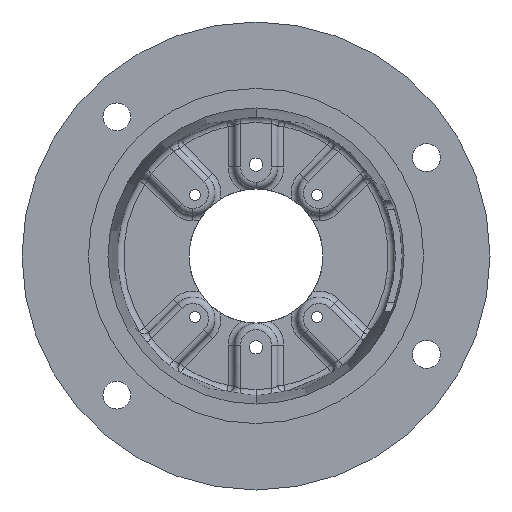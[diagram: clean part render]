
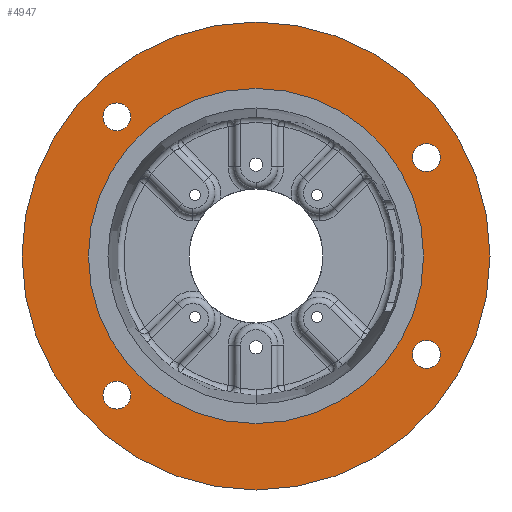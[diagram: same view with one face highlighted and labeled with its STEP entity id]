
A CAD part, front view. The second image highlights one B-rep face of the part: STEP entity #4947.
In plain terms, the highlighted planar face has unit normal (0, -1, 0).
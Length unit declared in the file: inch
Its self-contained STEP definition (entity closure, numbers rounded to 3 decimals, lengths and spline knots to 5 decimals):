
#106 = AXIS2_PLACEMENT_3D ( 'NONE', #3076, #10320, #4099 ) ;
#207 = DIRECTION ( 'NONE',  ( 0., -1., 0. ) ) ;
#375 = CIRCLE ( 'NONE', #9555, 0.32812 ) ;
#405 = DIRECTION ( 'NONE',  ( 0., 0., -1. ) ) ;
#452 = EDGE_CURVE ( 'NONE', #11928, #9702, #5743, .T. ) ;
#541 = CIRCLE ( 'NONE', #3482, 0.32812 ) ;
#590 = AXIS2_PLACEMENT_3D ( 'NONE', #9621, #3418, #10676 ) ;
#607 = DIRECTION ( 'NONE',  ( 0., -1., 0. ) ) ;
#648 = DIRECTION ( 'NONE',  ( 0., 1., 0. ) ) ;
#670 = CARTESIAN_POINT ( 'NONE',  ( -3.27037, 0., 3.27037 ) ) ;
#686 = CARTESIAN_POINT ( 'NONE',  ( -5.5, 0., 0. ) ) ;
#878 = VERTEX_POINT ( 'NONE', #12911 ) ;
#1000 = EDGE_CURVE ( 'NONE', #1751, #12498, #5585, .T. ) ;
#1241 = EDGE_CURVE ( 'NONE', #4808, #13283, #11269, .T. ) ;
#1345 = CARTESIAN_POINT ( 'NONE',  ( -3.27037, 0., 2.94224 ) ) ;
#1590 = VERTEX_POINT ( 'NONE', #3546 ) ;
#1751 = VERTEX_POINT ( 'NONE', #12488 ) ;
#2260 = FACE_OUTER_BOUND ( 'NONE', #12028, .T. ) ;
#2394 = CARTESIAN_POINT ( 'NONE',  ( 0., 0., 0. ) ) ;
#2471 = DIRECTION ( 'NONE',  ( 0., -1., 0. ) ) ;
#2473 = EDGE_CURVE ( 'NONE', #4027, #12474, #375, .T. ) ;
#2589 = FACE_BOUND ( 'NONE', #12554, .T. ) ;
#2685 = ORIENTED_EDGE ( 'NONE', *, *, #6621, .F. ) ;
#2773 = AXIS2_PLACEMENT_3D ( 'NONE', #5933, #5895, #4962 ) ;
#2822 = EDGE_CURVE ( 'NONE', #12498, #1751, #541, .T. ) ;
#3076 = CARTESIAN_POINT ( 'NONE',  ( 0., 0., 0. ) ) ;
#3410 = AXIS2_PLACEMENT_3D ( 'NONE', #4347, #11602, #5379 ) ;
#3418 = DIRECTION ( 'NONE',  ( 0., -1., 0. ) ) ;
#3447 = DIRECTION ( 'NONE',  ( 0., 0., -1. ) ) ;
#3482 = AXIS2_PLACEMENT_3D ( 'NONE', #5189, #3558, #5837 ) ;
#3546 = CARTESIAN_POINT ( 'NONE',  ( 4.00537, 0., 1.98437 ) ) ;
#3558 = DIRECTION ( 'NONE',  ( 0., -1., 0. ) ) ;
#3722 = CIRCLE ( 'NONE', #7131, 0.32812 ) ;
#3896 = AXIS2_PLACEMENT_3D ( 'NONE', #11058, #11012, #10740 ) ;
#4027 = VERTEX_POINT ( 'NONE', #10810 ) ;
#4099 = DIRECTION ( 'NONE',  ( 0., 0., -1. ) ) ;
#4240 = ORIENTED_EDGE ( 'NONE', *, *, #5583, .T. ) ;
#4315 = CARTESIAN_POINT ( 'NONE',  ( 0., 0., -3.9385 ) ) ;
#4347 = CARTESIAN_POINT ( 'NONE',  ( 4.00537, 0., 2.3125 ) ) ;
#4388 = AXIS2_PLACEMENT_3D ( 'NONE', #686, #648, #7923 ) ;
#4412 = CARTESIAN_POINT ( 'NONE',  ( 0., 0., 0. ) ) ;
#4460 = CARTESIAN_POINT ( 'NONE',  ( 4.00537, 0., -2.64063 ) ) ;
#4660 = ORIENTED_EDGE ( 'NONE', *, *, #2473, .F. ) ;
#4808 = VERTEX_POINT ( 'NONE', #4460 ) ;
#4943 = DIRECTION ( 'NONE',  ( 0., -1., 0. ) ) ;
#4947 = ADVANCED_FACE ( 'NONE', ( #13354, #2589, #7741, #10535, #5008, #2260 ), #12035, .F. ) ;
#4962 = DIRECTION ( 'NONE',  ( 0., 0., -1. ) ) ;
#5008 = FACE_BOUND ( 'NONE', #9913, .T. ) ;
#5075 = EDGE_CURVE ( 'NONE', #12474, #4027, #3722, .T. ) ;
#5174 = AXIS2_PLACEMENT_3D ( 'NONE', #4412, #11677, #10686 ) ;
#5189 = CARTESIAN_POINT ( 'NONE',  ( -3.27037, 0., -3.27037 ) ) ;
#5247 = ORIENTED_EDGE ( 'NONE', *, *, #11066, .F. ) ;
#5318 = CIRCLE ( 'NONE', #7003, 3.9385 ) ;
#5379 = DIRECTION ( 'NONE',  ( 0., 0., -1. ) ) ;
#5561 = CARTESIAN_POINT ( 'NONE',  ( -3.27037, 0., -3.59849 ) ) ;
#5583 = EDGE_CURVE ( 'NONE', #9028, #12062, #8248, .T. ) ;
#5585 = CIRCLE ( 'NONE', #2773, 0.32812 ) ;
#5656 = ORIENTED_EDGE ( 'NONE', *, *, #8106, .F. ) ;
#5679 = ORIENTED_EDGE ( 'NONE', *, *, #10828, .F. ) ;
#5743 = CIRCLE ( 'NONE', #5174, 3.9385 ) ;
#5753 = ORIENTED_EDGE ( 'NONE', *, *, #5075, .F. ) ;
#5837 = DIRECTION ( 'NONE',  ( 0., 0., -1. ) ) ;
#5895 = DIRECTION ( 'NONE',  ( 0., -1., 0. ) ) ;
#5933 = CARTESIAN_POINT ( 'NONE',  ( -3.27037, 0., -3.27037 ) ) ;
#6004 = EDGE_LOOP ( 'NONE', ( #5247, #2685 ) ) ;
#6197 = ORIENTED_EDGE ( 'NONE', *, *, #10227, .T. ) ;
#6393 = CARTESIAN_POINT ( 'NONE',  ( -3.27037, 0., 3.27037 ) ) ;
#6411 = CIRCLE ( 'NONE', #3410, 0.32812 ) ;
#6543 = CARTESIAN_POINT ( 'NONE',  ( 0., 0., 5.5 ) ) ;
#6621 = EDGE_CURVE ( 'NONE', #878, #1590, #9485, .T. ) ;
#7003 = AXIS2_PLACEMENT_3D ( 'NONE', #11165, #4943, #12201 ) ;
#7131 = AXIS2_PLACEMENT_3D ( 'NONE', #6393, #207, #7458 ) ;
#7458 = DIRECTION ( 'NONE',  ( 0., 0., -1. ) ) ;
#7567 = ORIENTED_EDGE ( 'NONE', *, *, #452, .F. ) ;
#7741 = FACE_BOUND ( 'NONE', #10203, .T. ) ;
#7923 = DIRECTION ( 'NONE',  ( 0., 0., 1. ) ) ;
#8106 = EDGE_CURVE ( 'NONE', #13283, #4808, #10764, .T. ) ;
#8248 = CIRCLE ( 'NONE', #106, 5.5 ) ;
#8426 = CARTESIAN_POINT ( 'NONE',  ( 0., 0., 3.9385 ) ) ;
#8580 = ORIENTED_EDGE ( 'NONE', *, *, #1241, .F. ) ;
#8677 = CARTESIAN_POINT ( 'NONE',  ( 4.00537, 0., 2.3125 ) ) ;
#9028 = VERTEX_POINT ( 'NONE', #12137 ) ;
#9485 = CIRCLE ( 'NONE', #9785, 0.32812 ) ;
#9555 = AXIS2_PLACEMENT_3D ( 'NONE', #670, #607, #405 ) ;
#9621 = CARTESIAN_POINT ( 'NONE',  ( 4.00537, 0., -2.3125 ) ) ;
#9652 = DIRECTION ( 'NONE',  ( 0., -1., 0. ) ) ;
#9702 = VERTEX_POINT ( 'NONE', #4315 ) ;
#9715 = EDGE_LOOP ( 'NONE', ( #5753, #4660 ) ) ;
#9716 = DIRECTION ( 'NONE',  ( 0., 0., -1. ) ) ;
#9749 = ORIENTED_EDGE ( 'NONE', *, *, #2822, .F. ) ;
#9785 = AXIS2_PLACEMENT_3D ( 'NONE', #8677, #2471, #9716 ) ;
#9913 = EDGE_LOOP ( 'NONE', ( #5679, #7567 ) ) ;
#10203 = EDGE_LOOP ( 'NONE', ( #9749, #12333 ) ) ;
#10227 = EDGE_CURVE ( 'NONE', #12062, #9028, #12326, .T. ) ;
#10320 = DIRECTION ( 'NONE',  ( 0., -1., 0. ) ) ;
#10535 = FACE_BOUND ( 'NONE', #9715, .T. ) ;
#10676 = DIRECTION ( 'NONE',  ( 0., 0., -1. ) ) ;
#10686 = DIRECTION ( 'NONE',  ( 0., 0., -1. ) ) ;
#10740 = DIRECTION ( 'NONE',  ( 0., 0., -1. ) ) ;
#10764 = CIRCLE ( 'NONE', #590, 0.32812 ) ;
#10810 = CARTESIAN_POINT ( 'NONE',  ( -3.27037, 0., 3.59849 ) ) ;
#10828 = EDGE_CURVE ( 'NONE', #9702, #11928, #5318, .T. ) ;
#10844 = CARTESIAN_POINT ( 'NONE',  ( 4.00537, 0., -1.98438 ) ) ;
#11012 = DIRECTION ( 'NONE',  ( 0., -1., 0. ) ) ;
#11058 = CARTESIAN_POINT ( 'NONE',  ( 4.00537, 0., -2.3125 ) ) ;
#11066 = EDGE_CURVE ( 'NONE', #1590, #878, #6411, .T. ) ;
#11165 = CARTESIAN_POINT ( 'NONE',  ( 0., 0., 0. ) ) ;
#11269 = CIRCLE ( 'NONE', #3896, 0.32812 ) ;
#11602 = DIRECTION ( 'NONE',  ( 0., -1., 0. ) ) ;
#11677 = DIRECTION ( 'NONE',  ( 0., -1., 0. ) ) ;
#11928 = VERTEX_POINT ( 'NONE', #8426 ) ;
#12004 = AXIS2_PLACEMENT_3D ( 'NONE', #2394, #9652, #3447 ) ;
#12028 = EDGE_LOOP ( 'NONE', ( #4240, #6197 ) ) ;
#12035 = PLANE ( 'NONE',  #4388 ) ;
#12062 = VERTEX_POINT ( 'NONE', #6543 ) ;
#12137 = CARTESIAN_POINT ( 'NONE',  ( 0., 0., -5.5 ) ) ;
#12201 = DIRECTION ( 'NONE',  ( 0., 0., -1. ) ) ;
#12326 = CIRCLE ( 'NONE', #12004, 5.5 ) ;
#12333 = ORIENTED_EDGE ( 'NONE', *, *, #1000, .F. ) ;
#12474 = VERTEX_POINT ( 'NONE', #1345 ) ;
#12488 = CARTESIAN_POINT ( 'NONE',  ( -3.27037, 0., -2.94224 ) ) ;
#12498 = VERTEX_POINT ( 'NONE', #5561 ) ;
#12554 = EDGE_LOOP ( 'NONE', ( #8580, #5656 ) ) ;
#12911 = CARTESIAN_POINT ( 'NONE',  ( 4.00537, 0., 2.64062 ) ) ;
#13283 = VERTEX_POINT ( 'NONE', #10844 ) ;
#13354 = FACE_BOUND ( 'NONE', #6004, .T. ) ;
